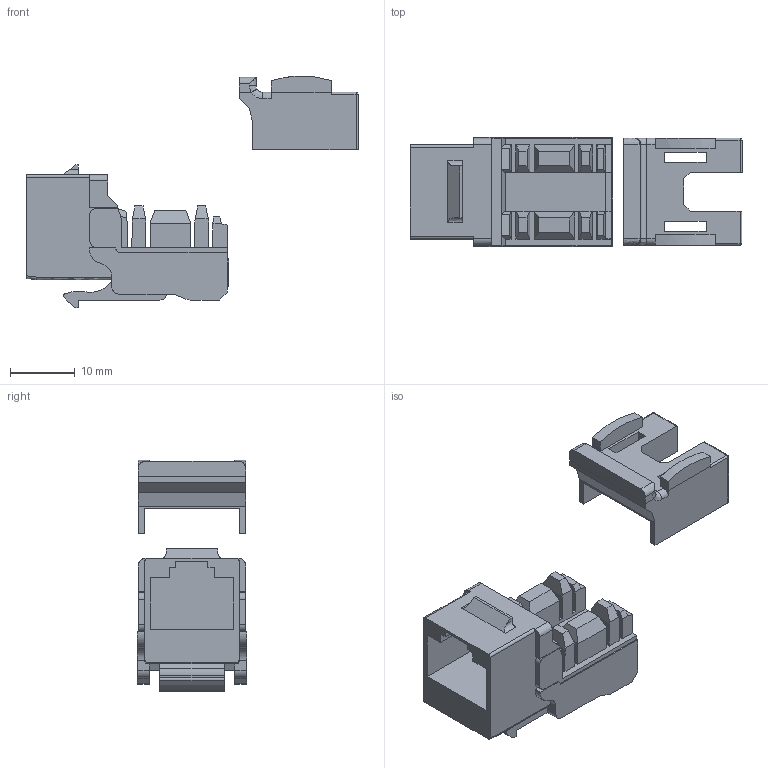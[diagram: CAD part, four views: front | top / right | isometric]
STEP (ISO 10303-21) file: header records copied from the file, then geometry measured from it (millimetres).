
FILE_DESCRIPTION( ('This file contains a STEP AP42 implementation' ,'as created by ZW3D STEP Interface translator.') ,'2;1' );
FILE_NAME( 'TB-035_3013AKVA6AWH_SD.stp' ,'26 330.134527', (''), ('ZWCAD Software Co.'), 'Version 1.0', 'ZW3D to STEP translator', '' );
FILE_SCHEMA(('AUTOMOTIVE_DESIGN'));
Length unit declared in the file: millimetre
Products named in the file (2): 0; TB-035_3013AKVA6AWH_SD
Bounding box: 51.3 x 16.85 x 35.79 mm (x, y, z)
Volume: 6179.8 mm3; surface area: 5968.8 mm2
Topology: 3 solids, 3 shells, 259 faces, 733 edges, 476 vertices
Faces by surface type: bspline 259
Entity records: 11646 total; most frequent: CARTESIAN_POINT 6941, ORIENTED_EDGE 1470, EDGE_CURVE 733, B_SPLINE_CURVE_WITH_KNOTS 729, VERTEX_POINT 476, EDGE_LOOP 265, FACE_OUTER_BOUND 259, ADVANCED_FACE 259
